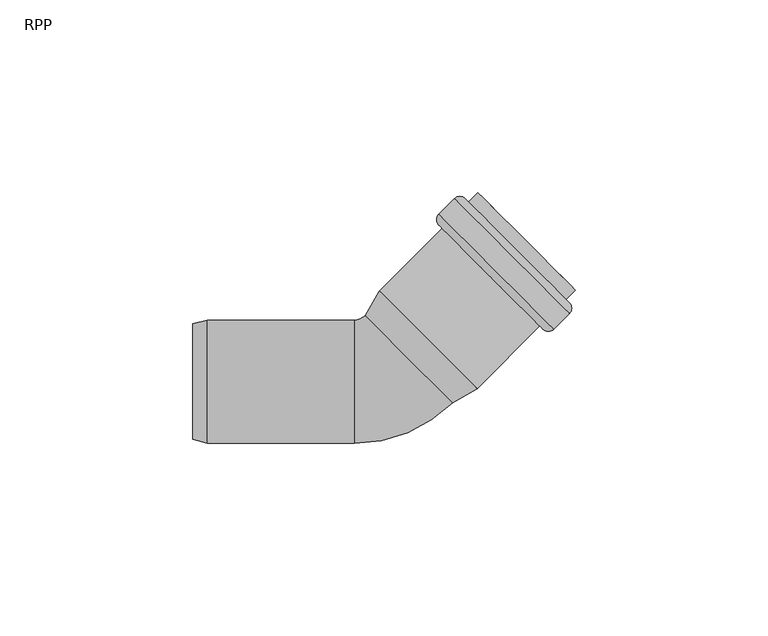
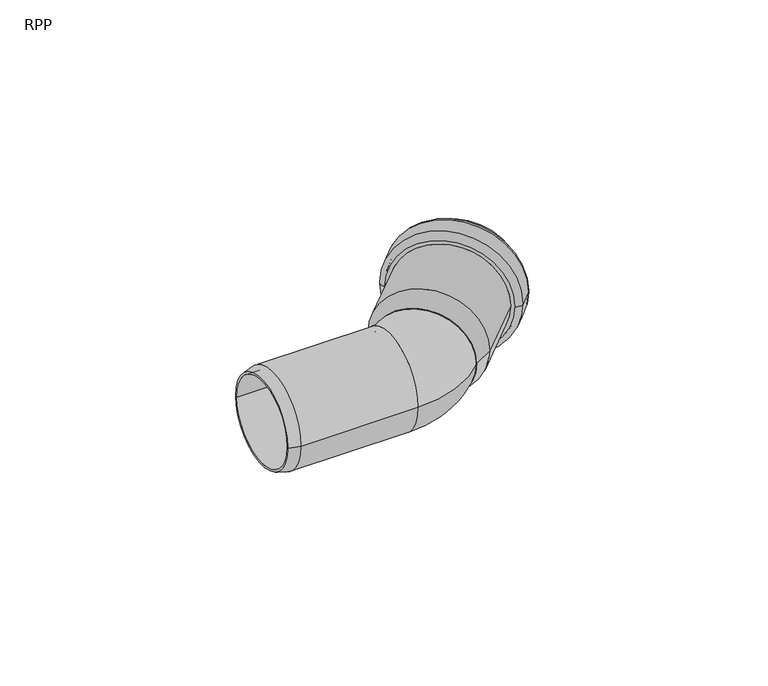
"""IFC4 building model written with IfcOpenShell, lengths in millimetres: pipe fitting geometry, RAUPIANO PLUS Bend : RPP."""

from ifc_helpers import new_model, si_unit, point, frame, origin, place, context, project, spatial, polyline, circle_curve, ellipse_curve, trimmed, source, transform, mapped, element, save
from ifc_brep_helpers import plane_surface, cylinder_surface, revolved_surface, advanced_brep


def rpp_5fe12256(model_context):
    return source(origin(), model_context, "Body", "AdvancedBrep", [
        advanced_brep(
        [(16.0002916, -4.2845628, 0.0), (-4.2845628, 16.0002916, 0.0), (-0.5050073, 22.5466737, 0.0), (22.5466737, -0.5050073, 0.0), (23.5290968, -1.785326, 0.0), (-1.785326, 23.5290968, 0.0), (-5.4558441, 17.1715729, 0.0), (17.1715729, -5.4558441, 0.0), (39.7989899, 14.4845671, 0.0), (14.4845671, 39.7989899, 0.0), (47.5064538, 17.6665476, 0.0), (17.6665476, 47.5064538, 0.0), (13.636039, 43.4759451, 0.0), (43.4759451, 13.636039, 0.0), (49.0620887, 23.7476659, 0.0), (23.7476659, 49.0620887, 0.0), (21.3435029, 46.6579257, 0.0), (46.6579257, 21.3435029, 0.0), (44.395184, 21.3435029, 0.0), (21.3435029, 44.395184, 0.0), (24.8790368, 47.9307179, 0.0), (47.9307179, 24.8790368, 0.0), (42.415285, 14.8381205, 0.0), (14.8381205, 42.415285, 0.0), (18.7272078, 46.3043723, 0.0), (46.3043723, 18.7272078, 0.0), (16.7473088, 39.7989899, 0.0), (39.7989899, 16.7473088, 0.0), (13.636039, 40.647518, 0.0), (40.647518, 13.636039, 0.0), (47.5064538, 20.4949747, 0.0), (20.4949747, 47.5064538, 0.0), (19.4343146, 46.3043723, 0.0), (46.3043723, 19.4343146, 0.0), (41.7081782, 14.8381205, 0.0), (14.8381205, 41.7081782, 0.0)],
        [
            (0, 1, circle_curve(frame((5.8578644, 5.8578644, 0.0), z_axis=(-0.7071067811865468, -0.7071067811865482, 0.0), x_axis=(-0.7071067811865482, 0.7071067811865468, 0.0)), 14.3435581)),
            (1, 2),
            (2, 3, circle_curve(frame((11.0208332, 11.0208332, 0.0), z_axis=(0.7071067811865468, 0.7071067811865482, 0.0), x_axis=(-0.7071067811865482, 0.7071067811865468, 0.0)), 16.3)),
            (3, 0),
            (4, 5, circle_curve(frame((10.8718854, 10.8718854, 0.0), z_axis=(-0.7071067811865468, -0.7071067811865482, 0.0), x_axis=(-0.7071067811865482, 0.7071067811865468, 0.0)), 17.9)),
            (5, 6),
            (6, 7, circle_curve(frame((5.8578644, 5.8578644, 0.0), z_axis=(0.7071067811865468, 0.7071067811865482, 0.0), x_axis=(-0.7071067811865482, 0.7071067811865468, 0.0)), 16.0)),
            (7, 4),
            (8, 9, circle_curve(frame((27.1417785, 27.1417785, 0.0), z_axis=(-0.7071067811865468, -0.7071067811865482, 0.0), x_axis=(-0.7071067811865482, 0.7071067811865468, 0.0)), 17.9)),
            (9, 5),
            (4, 8),
            (10, 11, circle_curve(frame((32.5865007, 32.5865007, 0.0), z_axis=(-0.7071067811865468, -0.7071067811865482, 0.0), x_axis=(-0.7071067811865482, 0.7071067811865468, 0.0)), 21.1)),
            (11, 12),
            (12, 13, circle_curve(frame((28.5559921, 28.5559921, 0.0), z_axis=(0.7071067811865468, 0.7071067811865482, 0.0), x_axis=(-0.7071067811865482, 0.7071067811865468, 0.0)), 21.1)),
            (13, 10),
            (14, 15, circle_curve(frame((36.4048773, 36.4048773, 0.0), z_axis=(-0.7071067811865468, -0.7071067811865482, 0.0), x_axis=(-0.7071067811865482, 0.7071067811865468, 0.0)), 17.9)),
            (15, 16),
            (16, 17, circle_curve(frame((34.0007143, 34.0007143, 0.0), z_axis=(0.7071067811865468, 0.7071067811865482, 0.0), x_axis=(-0.7071067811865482, 0.7071067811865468, 0.0)), 17.9)),
            (17, 14),
            (18, 19, circle_curve(frame((32.8693434, 32.8693434, 0.0), z_axis=(-0.7071067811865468, -0.7071067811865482, 0.0), x_axis=(-0.7071067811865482, 0.7071067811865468, 0.0)), 16.3)),
            (19, 20),
            (20, 21, circle_curve(frame((36.4048773, 36.4048773, 0.0), z_axis=(0.7071067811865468, 0.7071067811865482, 0.0), x_axis=(-0.7071067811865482, 0.7071067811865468, 0.0)), 16.3)),
            (21, 18),
            (22, 23, circle_curve(frame((28.6267027, 28.6267027, 0.0), z_axis=(-0.7071067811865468, -0.7071067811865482, 0.0), x_axis=(-0.7071067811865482, 0.7071067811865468, 0.0)), 19.5)),
            (23, 24),
            (24, 25, circle_curve(frame((32.51579, 32.51579, 0.0), z_axis=(0.7071067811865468, 0.7071067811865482, 0.0), x_axis=(-0.7071067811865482, 0.7071067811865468, 0.0)), 19.5)),
            (25, 22),
            (2, 26),
            (26, 27, circle_curve(frame((28.2731493, 28.2731493, 0.0), z_axis=(0.7071067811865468, 0.7071067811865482, 0.0), x_axis=(-0.7071067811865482, 0.7071067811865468, 0.0)), 16.3)),
            (27, 3),
            (1, 0, circle_curve(frame((5.8578644, 5.8578644, 0.0), z_axis=(-0.7071067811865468, -0.7071067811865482, 0.0), x_axis=(0.7071067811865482, -0.7071067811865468, 0.0)), 14.3435581)),
            (3, 2, circle_curve(frame((11.0208332, 11.0208332, 0.0), z_axis=(0.7071067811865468, 0.7071067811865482, 0.0), x_axis=(0.7071067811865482, -0.7071067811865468, 0.0)), 16.3)),
            (6, 7, circle_curve(frame((5.8578644, 5.8578644, 0.0), z_axis=(-0.7071067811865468, -0.7071067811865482, 0.0), x_axis=(0.7071067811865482, -0.7071067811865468, 0.0)), 16.0)),
            (5, 4, circle_curve(frame((10.8718854, 10.8718854, 0.0), z_axis=(-0.7071067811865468, -0.7071067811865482, 0.0), x_axis=(0.7071067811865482, -0.7071067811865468, 0.0)), 17.9)),
            (9, 8, circle_curve(frame((27.1417785, 27.1417785, 0.0), z_axis=(-0.7071067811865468, -0.7071067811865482, 0.0), x_axis=(0.7071067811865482, -0.7071067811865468, 0.0)), 17.9)),
            (28, 29, circle_curve(frame((27.1417785, 27.1417785, 0.0), z_axis=(-0.7071067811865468, -0.7071067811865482, 0.0), x_axis=(0.7071067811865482, -0.7071067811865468, 0.0)), 19.1)),
            (29, 28, circle_curve(frame((27.1417785, 27.1417785, 0.0), z_axis=(-0.7071067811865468, -0.7071067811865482, 0.0), x_axis=(-0.7071067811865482, 0.7071067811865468, 0.0)), 19.1)),
            (11, 10, circle_curve(frame((32.5865007, 32.5865007, 0.0), z_axis=(-0.7071067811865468, -0.7071067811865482, 0.0), x_axis=(0.7071067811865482, -0.7071067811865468, 0.0)), 21.1)),
            (13, 12, circle_curve(frame((28.5559921, 28.5559921, 0.0), z_axis=(0.7071067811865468, 0.7071067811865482, 0.0), x_axis=(0.7071067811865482, -0.7071067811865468, 0.0)), 21.1)),
            (30, 31, circle_curve(frame((34.0007143, 34.0007143, 0.0), z_axis=(0.7071067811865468, 0.7071067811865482, 0.0), x_axis=(0.7071067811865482, -0.7071067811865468, 0.0)), 19.1)),
            (31, 30, circle_curve(frame((34.0007143, 34.0007143, 0.0), z_axis=(0.7071067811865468, 0.7071067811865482, 0.0), x_axis=(-0.7071067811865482, 0.7071067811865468, 0.0)), 19.1)),
            (16, 17, circle_curve(frame((34.0007143, 34.0007143, 0.0), z_axis=(-0.7071067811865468, -0.7071067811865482, 0.0), x_axis=(0.7071067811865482, -0.7071067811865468, 0.0)), 17.9)),
            (15, 14, circle_curve(frame((36.4048773, 36.4048773, 0.0), z_axis=(-0.7071067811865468, -0.7071067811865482, 0.0), x_axis=(0.7071067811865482, -0.7071067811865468, 0.0)), 17.9)),
            (20, 21, circle_curve(frame((36.4048773, 36.4048773, 0.0), z_axis=(-0.7071067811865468, -0.7071067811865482, 0.0), x_axis=(0.7071067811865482, -0.7071067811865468, 0.0)), 16.3)),
            (19, 18, circle_curve(frame((32.8693434, 32.8693434, 0.0), z_axis=(-0.7071067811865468, -0.7071067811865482, 0.0), x_axis=(0.7071067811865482, -0.7071067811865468, 0.0)), 16.3)),
            (32, 33, circle_curve(frame((32.8693434, 32.8693434, 0.0), z_axis=(-0.7071067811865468, -0.7071067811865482, 0.0), x_axis=(0.7071067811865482, -0.7071067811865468, 0.0)), 19.0)),
            (33, 32, circle_curve(frame((32.8693434, 32.8693434, 0.0), z_axis=(-0.7071067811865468, -0.7071067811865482, 0.0), x_axis=(-0.7071067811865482, 0.7071067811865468, 0.0)), 19.0)),
            (23, 22, circle_curve(frame((28.6267027, 28.6267027, 0.0), z_axis=(-0.7071067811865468, -0.7071067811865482, 0.0), x_axis=(0.7071067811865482, -0.7071067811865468, 0.0)), 19.5)),
            (25, 24, circle_curve(frame((32.51579, 32.51579, 0.0), z_axis=(0.7071067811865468, 0.7071067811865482, 0.0), x_axis=(0.7071067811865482, -0.7071067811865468, 0.0)), 19.5)),
            (34, 35, circle_curve(frame((28.2731493, 28.2731493, 0.0), z_axis=(0.7071067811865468, 0.7071067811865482, 0.0), x_axis=(0.7071067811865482, -0.7071067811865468, 0.0)), 19.0)),
            (35, 34, circle_curve(frame((28.2731493, 28.2731493, 0.0), z_axis=(0.7071067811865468, 0.7071067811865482, 0.0), x_axis=(-0.7071067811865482, 0.7071067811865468, 0.0)), 19.0)),
            (26, 27, circle_curve(frame((28.2731493, 28.2731493, 0.0), z_axis=(-0.7071067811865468, -0.7071067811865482, 0.0), x_axis=(0.7071067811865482, -0.7071067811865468, 0.0)), 16.3)),
            (12, 28, circle_curve(frame((15.0502525, 42.0617316, 0.0), z_axis=(0.0, 0.0, 1.0), x_axis=(0.7071067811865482, -0.7071067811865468, 0.0)), 2.0)),
            (29, 13, circle_curve(frame((42.0617316, 15.0502525, 0.0), z_axis=(0.0, 0.0, 1.0), x_axis=(-0.7071067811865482, 0.7071067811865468, 0.0)), 2.0)),
            (31, 11, circle_curve(frame((19.0807612, 46.0922402, 0.0), z_axis=(0.0, 0.0, 1.0), x_axis=(0.7071067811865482, -0.7071067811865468, 0.0)), 2.0)),
            (10, 30, circle_curve(frame((46.0922402, 19.0807612, 0.0), z_axis=(0.0, 0.0, 1.0), x_axis=(-0.7071067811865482, 0.7071067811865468, 0.0)), 2.0)),
            (24, 32, circle_curve(frame((19.0807612, 45.9508189, 0.0), z_axis=(0.0, 0.0, -1.0), x_axis=(0.7071067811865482, -0.7071067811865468, 0.0)), 0.5)),
            (33, 25, circle_curve(frame((45.9508189, 19.0807612, 0.0), z_axis=(0.0, 0.0, -1.0), x_axis=(-0.7071067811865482, 0.7071067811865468, 0.0)), 0.5)),
            (35, 23, circle_curve(frame((15.1916739, 42.0617316, 0.0), z_axis=(0.0, 0.0, -1.0), x_axis=(0.7071067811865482, -0.7071067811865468, 0.0)), 0.5)),
            (22, 34, circle_curve(frame((42.0617316, 15.1916739, 0.0), z_axis=(0.0, 0.0, -1.0), x_axis=(-0.7071067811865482, 0.7071067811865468, 0.0)), 0.5)),
        ],
        [
            revolved_surface(polyline([(-0.5050073, 22.5466737, 0.0), (-4.2845628, 16.0002916, 0.0)]), (5.8578644, 5.8578644, 0.0), (0.7071067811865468, 0.7071067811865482, 0.0)),
            revolved_surface(polyline([(-5.4558441, 17.1715729, 0.0), (-1.785326, 23.5290968, 0.0)]), (5.8578644, 5.8578644, 0.0), (0.7071067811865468, 0.7071067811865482, 0.0)),
            cylinder_surface(frame((5.8578644, 5.8578644, 0.0), z_axis=(0.7071067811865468, 0.7071067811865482, 0.0), x_axis=(-0.7071067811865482, 0.7071067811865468, 0.0)), 17.9),
            cylinder_surface(frame((5.8578644, 5.8578644, 0.0), z_axis=(0.7071067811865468, 0.7071067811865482, 0.0), x_axis=(-0.7071067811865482, 0.7071067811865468, 0.0)), 21.1),
            revolved_surface(polyline([(24.87903681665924, 47.930717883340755, 0.0), (21.343502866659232, 44.39518393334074, 0.0)]), (5.8578644, 5.8578644, 0.0), (0.7071067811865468, 0.7071067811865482, 0.0)),
            revolved_surface(polyline([(18.727207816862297, 46.30437228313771, 0.0), (14.838120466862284, 42.415284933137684, 0.0)]), (5.8578644, 5.8578644, 0.0), (0.7071067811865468, 0.7071067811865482, 0.0)),
            revolved_surface(polyline([(16.74730881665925, 39.798989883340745, 0.0), (-0.5050073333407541, 22.546673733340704, 0.0)]), (5.8578644, 5.8578644, 0.0), (0.7071067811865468, 0.7071067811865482, 0.0)),
            revolved_surface(polyline([(22.5466737, -0.5050073, 0.0), (16.0002916, -4.2845628, 0.0)]), (5.8578644, 5.8578644, 0.0), (0.7071067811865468, 0.7071067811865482, 0.0)),
            plane_surface(frame((5.8578644, 5.8578644, 0.0), z_axis=(-0.7071067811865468, -0.7071067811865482, 0.0), x_axis=(0.7071067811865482, -0.7071067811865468, 0.0))),
            revolved_surface(polyline([(17.1715729, -5.4558441, 0.0), (23.5290968, -1.785326, 0.0)]), (5.8578644, 5.8578644, 0.0), (0.7071067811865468, 0.7071067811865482, 0.0)),
            cylinder_surface(frame((5.8578644, 5.8578644, 0.0), z_axis=(0.7071067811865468, 0.7071067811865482, 0.0), x_axis=(0.7071067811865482, -0.7071067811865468, 0.0)), 17.9),
            plane_surface(frame((27.1417785, 27.1417785, 0.0), z_axis=(-0.7071067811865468, -0.7071067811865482, 0.0), x_axis=(0.7071067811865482, -0.7071067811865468, 0.0))),
            cylinder_surface(frame((5.8578644, 5.8578644, 0.0), z_axis=(0.7071067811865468, 0.7071067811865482, 0.0), x_axis=(0.7071067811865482, -0.7071067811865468, 0.0)), 21.1),
            plane_surface(frame((34.0007143, 34.0007143, 0.0), z_axis=(0.7071067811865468, 0.7071067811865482, 0.0), x_axis=(0.7071067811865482, -0.7071067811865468, 0.0))),
            plane_surface(frame((36.4048773, 36.4048773, 0.0), z_axis=(0.7071067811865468, 0.7071067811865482, 0.0), x_axis=(0.7071067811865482, -0.7071067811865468, 0.0))),
            revolved_surface(polyline([(47.93071788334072, 24.87903681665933, 0.0), (44.395183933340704, 21.343502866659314, 0.0)]), (5.8578644, 5.8578644, 0.0), (0.7071067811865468, 0.7071067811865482, 0.0)),
            plane_surface(frame((32.8693434, 32.8693434, 0.0), z_axis=(-0.7071067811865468, -0.7071067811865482, 0.0), x_axis=(0.7071067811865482, -0.7071067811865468, 0.0))),
            revolved_surface(polyline([(46.30437228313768, 18.727207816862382, 0.0), (42.41528493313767, 14.838120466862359, 0.0)]), (5.8578644, 5.8578644, 0.0), (0.7071067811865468, 0.7071067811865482, 0.0)),
            plane_surface(frame((28.2731493, 28.2731493, 0.0), z_axis=(0.7071067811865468, 0.7071067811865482, 0.0), x_axis=(0.7071067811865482, -0.7071067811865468, 0.0))),
            revolved_surface(polyline([(39.798989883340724, 16.74730881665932, 0.0), (22.54667373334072, -0.5050073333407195, 0.0)]), (5.8578644, 5.8578644, 0.0), (0.7071067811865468, 0.7071067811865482, 0.0)),
            revolved_surface(trimmed(ellipse_curve(frame((15.0502525, 42.0617316, 0.0), z_axis=(0.0, 0.0, -1.0), x_axis=(0.7071067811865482, -0.7071067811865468, 0.0)), 2.0, 2.0), [point((13.636039, 40.647518, 0.0))], [point((13.636039, 43.4759451, 0.0))], True, "CARTESIAN"), (5.8578644, 5.8578644, 0.0), (0.7071067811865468, 0.7071067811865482, 0.0)),
            revolved_surface(trimmed(ellipse_curve(frame((19.0807612, 46.0922402, 0.0), z_axis=(0.0, 0.0, -1.0), x_axis=(0.7071067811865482, -0.7071067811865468, 0.0)), 2.0, 2.0), [point((17.6665476, 47.5064538, 0.0))], [point((20.4949747, 47.5064538, 0.0))], True, "CARTESIAN"), (5.8578644, 5.8578644, 0.0), (0.7071067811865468, 0.7071067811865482, 0.0)),
            revolved_surface(trimmed(ellipse_curve(frame((19.0807612, 45.9508189, 0.0), z_axis=(0.0, 0.0, 1.0), x_axis=(0.7071067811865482, -0.7071067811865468, 0.0)), 0.5, 0.5), [point((19.4343146, 46.3043723, 0.0))], [point((18.7272078, 46.3043723, 0.0))], True, "CARTESIAN"), (5.8578644, 5.8578644, 0.0), (0.7071067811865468, 0.7071067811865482, 0.0)),
            revolved_surface(trimmed(ellipse_curve(frame((15.1916739, 42.0617316, 0.0), z_axis=(0.0, 0.0, 1.0), x_axis=(0.7071067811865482, -0.7071067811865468, 0.0)), 0.5, 0.5), [point((14.8381205, 42.415285, 0.0))], [point((14.8381205, 41.7081782, 0.0))], True, "CARTESIAN"), (5.8578644, 5.8578644, 0.0), (0.7071067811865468, 0.7071067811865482, 0.0)),
            revolved_surface(trimmed(ellipse_curve(frame((42.0617316, 15.0502525, 0.0), z_axis=(0.0, 0.0, 1.0), x_axis=(-0.7071067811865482, 0.7071067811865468, 0.0)), 2.0, 2.0), [point((40.647518, 13.636039, 0.0))], [point((43.4759451, 13.636039, 0.0))], True, "CARTESIAN"), (5.8578644, 5.8578644, 0.0), (0.7071067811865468, 0.7071067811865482, 0.0)),
            revolved_surface(trimmed(ellipse_curve(frame((46.0922402, 19.0807612, 0.0), z_axis=(0.0, 0.0, 1.0), x_axis=(-0.7071067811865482, 0.7071067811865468, 0.0)), 2.0, 2.0), [point((47.5064538, 17.6665476, 0.0))], [point((47.5064538, 20.4949747, 0.0))], True, "CARTESIAN"), (5.8578644, 5.8578644, 0.0), (0.7071067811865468, 0.7071067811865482, 0.0)),
            revolved_surface(trimmed(ellipse_curve(frame((45.9508189, 19.0807612, 0.0), z_axis=(0.0, 0.0, -1.0), x_axis=(-0.7071067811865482, 0.7071067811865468, 0.0)), 0.5, 0.5), [point((46.3043723, 19.4343146, 0.0))], [point((46.3043723, 18.7272078, 0.0))], True, "CARTESIAN"), (5.8578644, 5.8578644, 0.0), (0.7071067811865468, 0.7071067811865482, 0.0)),
            revolved_surface(trimmed(ellipse_curve(frame((42.0617316, 15.1916739, 0.0), z_axis=(0.0, 0.0, -1.0), x_axis=(-0.7071067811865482, 0.7071067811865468, 0.0)), 0.5, 0.5), [point((42.415285, 14.8381205, 0.0))], [point((41.7081782, 14.8381205, 0.0))], True, "CARTESIAN"), (5.8578644, 5.8578644, 0.0), (0.7071067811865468, 0.7071067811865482, 0.0)),
        ],
        [
            (0, [[1, 2, 3, 4]]),
            (1, [[5, 6, 7, 8]]),
            (2, [[9, 10, -5, 11]]),
            (3, [[12, 13, 14, 15]]),
            (2, [[16, 17, 18, 19]]),
            (4, [[20, 21, 22, 23]]),
            (5, [[24, 25, 26, 27]]),
            (6, [[-3, 28, 29, 30]]),
            (7, [[31, -4, 32, -2]]),
            (8, [[33, -7], [-31, -1]]),
            (9, [[34, -8, -33, -6]]),
            (10, [[35, -11, -34, -10]]),
            (11, [[36, 37], [-35, -9]]),
            (12, [[38, -15, 39, -13]]),
            (13, [[40, 41], [42, -18]]),
            (10, [[43, -19, -42, -17]]),
            (14, [[-43, -16], [44, -22]]),
            (15, [[45, -23, -44, -21]]),
            (16, [[46, 47], [-45, -20]]),
            (17, [[48, -27, 49, -25]]),
            (18, [[50, 51], [52, -29]]),
            (19, [[-32, -30, -52, -28]]),
            (20, [[-14, 53, -37, 54]]),
            (21, [[-41, 55, -12, 56]]),
            (22, [[-26, 57, -47, 58]]),
            (23, [[-51, 59, -24, 60]]),
            (24, [[-39, -54, -36, -53]]),
            (25, [[-40, -56, -38, -55]]),
            (26, [[-49, -58, -46, -57]]),
            (27, [[-50, -60, -48, -59]]),
        ],
    ),
        advanced_brep(
        [(-8.2842712, 14.2, 0.0), (-8.2842712, -14.2, 0.0), (-50.2842712, -14.2, 0.0), (-50.2842712, 14.2, 0.0), (-46.5522204, 16.0, 0.0), (-46.5522204, -16.0, 0.0), (-8.2842712, -16.0, 0.0), (-8.2842712, 16.0, 0.0), (-50.2842712, 15.0, 0.0), (-50.2842712, -15.0, 0.0)],
        [
            (0, 1, circle_curve(frame((-8.2842712, 0.0, 0.0), z_axis=(1.0, 0.0, 0.0), x_axis=(0.0, -1.0, 0.0)), 14.2)),
            (1, 2),
            (2, 3, circle_curve(frame((-50.2842712, 0.0, 0.0), z_axis=(-1.0, 0.0, 0.0), x_axis=(0.0, -1.0, 0.0)), 14.2)),
            (3, 0),
            (4, 5, circle_curve(frame((-46.5522204, 0.0, 0.0), z_axis=(1.0, 0.0, 0.0), x_axis=(0.0, -1.0, 0.0)), 16.0)),
            (5, 6),
            (6, 7, circle_curve(frame((-8.2842712, 0.0, 0.0), z_axis=(-1.0, 0.0, 0.0), x_axis=(0.0, -1.0, 0.0)), 16.0)),
            (7, 4),
            (8, 9, circle_curve(frame((-50.2842712, 0.0, 0.0), z_axis=(1.0, 0.0, 0.0), x_axis=(0.0, -1.0, 0.0)), 15.0)),
            (9, 5),
            (4, 8),
            (1, 0, circle_curve(frame((-8.2842712, 0.0, 0.0), z_axis=(1.0, 0.0, 0.0), x_axis=(0.0, 1.0, 0.0)), 14.2)),
            (3, 2, circle_curve(frame((-50.2842712, 0.0, 0.0), z_axis=(-1.0, 0.0, 0.0), x_axis=(0.0, 1.0, 0.0)), 14.2)),
            (6, 7, circle_curve(frame((-8.2842712, 0.0, 0.0), z_axis=(1.0, 0.0, 0.0), x_axis=(0.0, 1.0, 0.0)), 16.0)),
            (5, 4, circle_curve(frame((-46.5522204, 0.0, 0.0), z_axis=(1.0, 0.0, 0.0), x_axis=(0.0, 1.0, 0.0)), 16.0)),
            (9, 8, circle_curve(frame((-50.2842712, 0.0, 0.0), z_axis=(1.0, 0.0, 0.0), x_axis=(0.0, 1.0, 0.0)), 15.0)),
        ],
        [
            revolved_surface(polyline([(-50.2842712, -14.2, 0.0), (-8.2842712, -14.2, 0.0)]), (-8.2842712, 0.0, 0.0), (-1.0, 0.0, 0.0)),
            cylinder_surface(frame((-8.2842712, 0.0, 0.0), z_axis=(-1.0, 0.0, 0.0), x_axis=(0.0, -1.0, 0.0)), 16.0),
            revolved_surface(polyline([(-46.5522204, -16.0, 0.0), (-50.2842712, -15.0, 0.0)]), (-8.2842712, 0.0, 0.0), (-1.0, 0.0, 0.0)),
            revolved_surface(polyline([(-50.2842712, 14.2, 0.0), (-8.2842712, 14.2, 0.0)]), (-8.2842712, 0.0, 0.0), (-1.0, 0.0, 0.0)),
            plane_surface(frame((-8.2842712, 0.0, 0.0), z_axis=(1.0, 0.0, 0.0), x_axis=(0.0, 1.0, 0.0))),
            cylinder_surface(frame((-8.2842712, 0.0, 0.0), z_axis=(-1.0, 0.0, 0.0), x_axis=(0.0, 1.0, 0.0)), 16.0),
            revolved_surface(polyline([(-46.5522204, 16.0, 0.0), (-50.2842712, 15.0, 0.0)]), (-8.2842712, 0.0, 0.0), (-1.0, 0.0, 0.0)),
            plane_surface(frame((-50.2842712, 0.0, 0.0), z_axis=(-1.0, 0.0, 0.0), x_axis=(0.0, 1.0, 0.0))),
        ],
        [
            (0, [[1, 2, 3, 4]]),
            (1, [[5, 6, 7, 8]]),
            (2, [[9, 10, -5, 11]]),
            (3, [[12, -4, 13, -2]]),
            (4, [[14, -7], [-12, -1]]),
            (5, [[15, -8, -14, -6]]),
            (6, [[16, -11, -15, -10]]),
            (7, [[-16, -9], [-13, -3]]),
        ],
    ),
        advanced_brep(
        [(-8.2842712, -16.0, 0.0), (-8.2842712, 16.0, 0.0), (-8.2842712, -14.2, 0.0), (-8.2842712, 14.2, 0.0), (17.1715729, -5.4558441, 0.0), (-5.4558441, 17.1715729, 0.0), (15.8987807, -4.1830519, 0.0), (-4.1830519, 15.8987807, 0.0)],
        [
            (0, 1, circle_curve(frame((-8.2842712, 0.0, 0.0), z_axis=(-1.0, 0.0, 0.0), x_axis=(0.0, 1.0, 0.0)), 16.0)),
            (1, 0, circle_curve(frame((-8.2842712, 0.0, 0.0), z_axis=(-1.0, 0.0, 0.0), x_axis=(0.0, 1.0, 0.0)), 16.0)),
            (2, 3, circle_curve(frame((-8.2842712, 0.0, 0.0), z_axis=(1.0, 0.0, 0.0), x_axis=(0.0, 1.0, 0.0)), 14.2)),
            (3, 2, circle_curve(frame((-8.2842712, 0.0, 0.0), z_axis=(1.0, 0.0, 0.0), x_axis=(0.0, 1.0, 0.0)), 14.2)),
            (4, 5, circle_curve(frame((5.8578644, 5.8578644, 0.0), z_axis=(0.7071067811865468, 0.7071067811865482, 0.0), x_axis=(-0.7071067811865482, 0.7071067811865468, 0.0)), 16.0)),
            (5, 4, circle_curve(frame((5.8578644, 5.8578644, 0.0), z_axis=(0.7071067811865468, 0.7071067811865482, 0.0), x_axis=(-0.7071067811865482, 0.7071067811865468, 0.0)), 16.0)),
            (6, 7, circle_curve(frame((5.8578644, 5.8578644, 0.0), z_axis=(-0.7071067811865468, -0.7071067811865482, 0.0), x_axis=(-0.7071067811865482, 0.7071067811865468, 0.0)), 14.2)),
            (7, 6, circle_curve(frame((5.8578644, 5.8578644, 0.0), z_axis=(-0.7071067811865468, -0.7071067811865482, 0.0), x_axis=(-0.7071067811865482, 0.7071067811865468, 0.0)), 14.2)),
            (7, 3, circle_curve(frame((-8.2842712, 20.0, 0.0), z_axis=(0.0, 0.0, -1.0), x_axis=(0.0, -1.0, 0.0)), 5.8)),
            (2, 6, circle_curve(frame((-8.2842712, 20.0, 0.0), z_axis=(0.0, 0.0, 1.0), x_axis=(0.0, -1.0, 0.0)), 34.2)),
            (5, 1, circle_curve(frame((-8.2842712, 20.0, 0.0), z_axis=(0.0, 0.0, -1.0), x_axis=(0.0, -1.0, 0.0)), 4.0)),
            (0, 4, circle_curve(frame((-8.2842712, 20.0, 0.0), z_axis=(0.0, 0.0, 1.0), x_axis=(0.0, -1.0, 0.0)), 36.0)),
        ],
        [
            plane_surface(frame((-8.2842712, 0.0, 0.0), z_axis=(-1.0, 0.0, 0.0), x_axis=(0.0, 0.0, 1.0))),
            plane_surface(frame((5.8578644, 5.8578644, 0.0), z_axis=(0.7071067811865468, 0.7071067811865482, 0.0), x_axis=(0.0, 0.0, 1.0))),
            revolved_surface(trimmed(ellipse_curve(frame((-8.2842712, 0.0, 0.0), z_axis=(1.0, 0.0, 0.0), x_axis=(0.0, 1.0, 0.0)), 14.2, 14.2), [point((-8.2842712, -14.2, 0.0))], [point((-8.2842712, 14.2, 0.0))], True, "CARTESIAN"), (-8.2842712, 20.0, 0.0), (0.0, 0.0, 1.0)),
            revolved_surface(trimmed(ellipse_curve(frame((-8.2842712, 0.0, 0.0), z_axis=(1.0, 0.0, 0.0), x_axis=(0.0, 1.0, 0.0)), 14.2, 14.2), [point((-8.2842712, 14.2, 0.0))], [point((-8.2842712, -14.2, 0.0))], True, "CARTESIAN"), (-8.2842712, 20.0, 0.0), (0.0, 0.0, 1.0)),
            revolved_surface(trimmed(ellipse_curve(frame((-8.2842712, 0.0, 0.0), z_axis=(-1.0, 0.0, 0.0), x_axis=(0.0, 1.0, 0.0)), 16.0, 16.0), [point((-8.2842712, -16.0, 0.0))], [point((-8.2842712, 16.0, 0.0))], True, "CARTESIAN"), (-8.2842712, 20.0, 0.0), (0.0, 0.0, 1.0)),
            revolved_surface(trimmed(ellipse_curve(frame((-8.2842712, 0.0, 0.0), z_axis=(-1.0, 0.0, 0.0), x_axis=(0.0, 1.0, 0.0)), 16.0, 16.0), [point((-8.2842712, 16.0, 0.0))], [point((-8.2842712, -16.0, 0.0))], True, "CARTESIAN"), (-8.2842712, 20.0, 0.0), (0.0, 0.0, 1.0)),
        ],
        [
            (0, [[1, 2], [3, 4]]),
            (1, [[5, 6], [7, 8]]),
            (2, [[9, -3, 10, -8]]),
            (3, [[-10, -4, -9, -7]]),
            (4, [[11, -1, 12, -6]]),
            (5, [[-12, -2, -11, -5]]),
        ],
    ),
    ])


if __name__ == "__main__":
    model = new_model("IFC4")
    model_context = context("Model", 3, world=origin())
    ifc_project = project(units=[si_unit("LENGTHUNIT", "METRE", prefix="MILLI")], contexts=[model_context])
    site = spatial("IfcSite", under=ifc_project)
    building = spatial("IfcBuilding", under=site)
    placement = place(None, origin())
    rpp_shape = rpp_5fe12256(model_context)
    element("IfcPipeFitting", 1, ObjectType="RAUPIANO PLUS Bend : RPP", at=placement, inside=building, context=model_context, shape_type="MappedRepresentation", body=[
        mapped(rpp_shape, transform((0.0, 0.0, 0.0), x_axis=(1.0, 0.0, 0.0), y_axis=(0.0, 1.0, 0.0), z_axis=(0.0, 0.0, 1.0))),
    ])
    save(model, "model.ifc")
